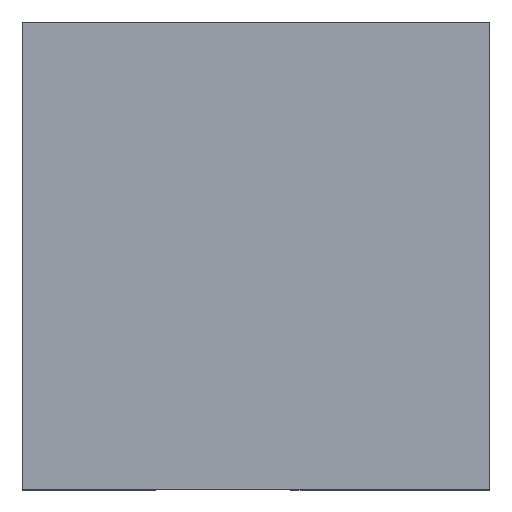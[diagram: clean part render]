
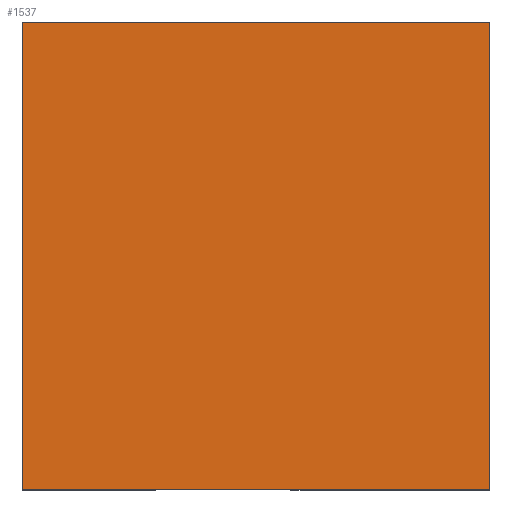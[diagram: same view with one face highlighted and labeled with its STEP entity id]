
A CAD part, top view. The second image highlights one B-rep face of the part: STEP entity #1537.
In plain terms, the highlighted planar face has unit normal (0, 0, 1).
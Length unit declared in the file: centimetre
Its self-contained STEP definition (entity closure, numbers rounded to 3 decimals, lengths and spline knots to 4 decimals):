
#36 = VERTEX_POINT ( 'NONE', #90 ) ;
#73 = CARTESIAN_POINT ( 'NONE',  ( 0., 1000., 1000. ) ) ;
#81 = VECTOR ( 'NONE', #542, 100. ) ;
#90 = CARTESIAN_POINT ( 'NONE',  ( 0., 1000., 1000. ) ) ;
#107 = VERTEX_POINT ( 'NONE', #207 ) ;
#118 = CARTESIAN_POINT ( 'NONE',  ( 1000., 1000., 1000. ) ) ;
#138 = LINE ( 'NONE', #475, #1258 ) ;
#207 = CARTESIAN_POINT ( 'NONE',  ( 0., 0., 1000. ) ) ;
#229 = PLANE ( 'NONE',  #1153 ) ;
#232 = VERTEX_POINT ( 'NONE', #718 ) ;
#247 = CARTESIAN_POINT ( 'NONE',  ( 0., 1000., 1000. ) ) ;
#257 = LINE ( 'NONE', #247, #1365 ) ;
#272 = EDGE_LOOP ( 'NONE', ( #873, #324, #561, #363 ) ) ;
#278 = DIRECTION ( 'NONE',  ( 1., 0., 0. ) ) ;
#324 = ORIENTED_EDGE ( 'NONE', *, *, #767, .T. ) ;
#363 = ORIENTED_EDGE ( 'NONE', *, *, #879, .T. ) ;
#388 = DIRECTION ( 'NONE',  ( 0., 1., 0. ) ) ;
#475 = CARTESIAN_POINT ( 'NONE',  ( 0., 0., 1000. ) ) ;
#491 = LINE ( 'NONE', #118, #663 ) ;
#542 = DIRECTION ( 'NONE',  ( -1., 0., 0. ) ) ;
#561 = ORIENTED_EDGE ( 'NONE', *, *, #955, .T. ) ;
#585 = DIRECTION ( 'NONE',  ( 0., 0., 1. ) ) ;
#663 = VECTOR ( 'NONE', #388, 100. ) ;
#718 = CARTESIAN_POINT ( 'NONE',  ( 1000., 0., 1000. ) ) ;
#767 = EDGE_CURVE ( 'NONE', #107, #232, #138, .T. ) ;
#873 = ORIENTED_EDGE ( 'NONE', *, *, #900, .T. ) ;
#879 = EDGE_CURVE ( 'NONE', #891, #36, #1132, .T. ) ;
#891 = VERTEX_POINT ( 'NONE', #1235 ) ;
#900 = EDGE_CURVE ( 'NONE', #36, #107, #257, .T. ) ;
#941 = DIRECTION ( 'NONE',  ( 0., -1., 0. ) ) ;
#955 = EDGE_CURVE ( 'NONE', #232, #891, #491, .T. ) ;
#1059 = DIRECTION ( 'NONE',  ( 1., 0., 0. ) ) ;
#1132 = LINE ( 'NONE', #73, #81 ) ;
#1153 = AXIS2_PLACEMENT_3D ( 'NONE', #1178, #585, #1059 ) ;
#1178 = CARTESIAN_POINT ( 'NONE',  ( 0., 0., 1000. ) ) ;
#1235 = CARTESIAN_POINT ( 'NONE',  ( 1000., 1000., 1000. ) ) ;
#1258 = VECTOR ( 'NONE', #278, 100. ) ;
#1365 = VECTOR ( 'NONE', #941, 100. ) ;
#1438 = FACE_OUTER_BOUND ( 'NONE', #272, .T. ) ;
#1537 = ADVANCED_FACE ( 'NONE', ( #1438 ), #229, .T. ) ;
